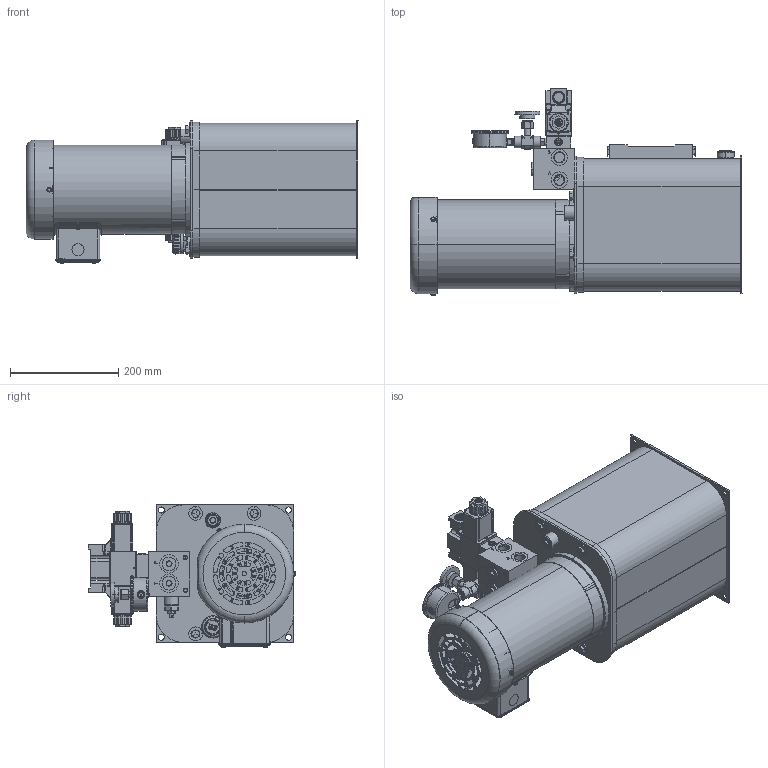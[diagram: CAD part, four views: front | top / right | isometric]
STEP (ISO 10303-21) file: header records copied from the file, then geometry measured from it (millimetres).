
FILE_DESCRIPTION (( 'STEP AP214' ), '1' );
FILE_NAME ('T3V-10-M-P1-XX-069.STEP', '2021-09-08T14:13:49', ( '' ), ( '' ), 'SwSTEP 2.0', 'SolidWorks 2020', '' );
FILE_SCHEMA (( 'AUTOMOTIVE_DESIGN' ));
Length unit declared in the file: inch
Products named in the file (1): T3V-10-M-P1-XX-069
Bounding box: 612.94 x 382.69 x 262.78 mm (x, y, z)
Surface area: 1010343.3 mm2 (no closed solid volume)
Topology: 0 solids, 131 shells, 1783 faces, 8166 edges, 6295 vertices
Faces by surface type: plane 684, cylinder 618, bspline 185, cone 179, torus 87, sphere 30
Entity records: 140890 total; most frequent: CARTESIAN_POINT 56150, DIRECTION 11903, ORIENTED_EDGE 11531, EDGE_CURVE 8140, VERTEX_POINT 6295, LINE 4037, VECTOR 4037, AXIS2_PLACEMENT_3D 3933
